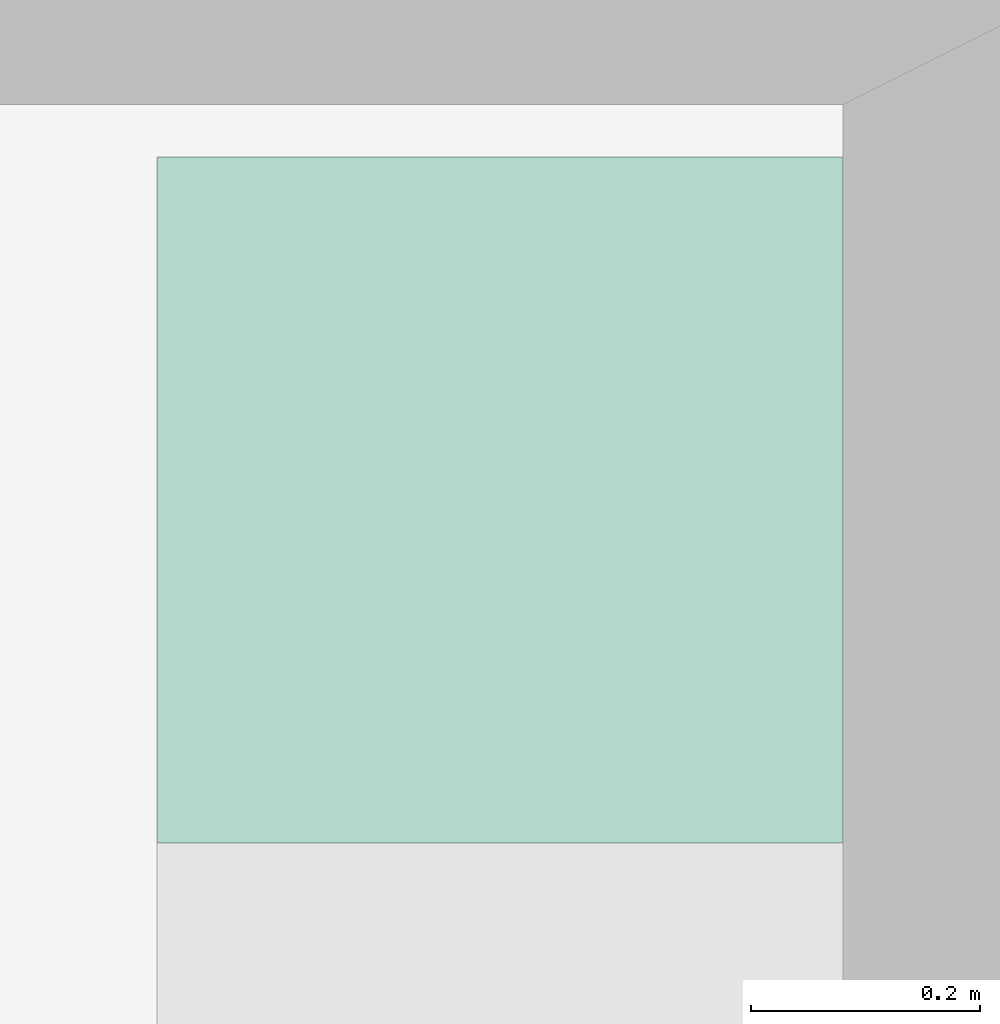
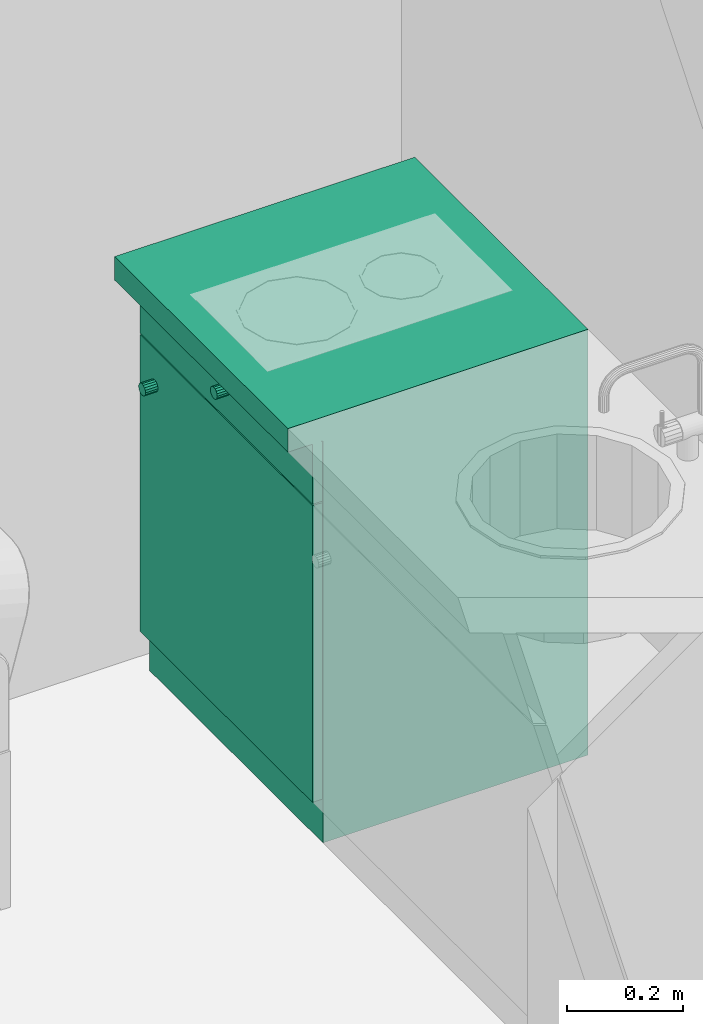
# One storey, part 60 of 172: 1 flow terminal.
"""IFC2X3 building model written with IfcOpenShell, lengths in millimetres."""

from ifc_helpers import new_model, entity, si_unit, converted_unit, money_unit, direction, frame, origin_with_axes, place, context, subcontext, project, spatial, faceted_brep, source, transform, mapped, material, material_list, type_object, element, save


model = new_model("IFC2X3")

# Units and contexts
model_context = context("Model", 3, precision=1e-05, world=origin_with_axes(), true_north=direction((0.0, 1.0)))
body_context = subcontext(model_context, "Body", "Model", "MODEL_VIEW")
ifc_project = project(units=[si_unit("LENGTHUNIT", "METRE", prefix="MILLI"), si_unit("AREAUNIT", "SQUARE_METRE"), si_unit("VOLUMEUNIT", "CUBIC_METRE"), converted_unit("PLANEANGLEUNIT", "DEGREE", entity("IfcPlaneAngleMeasure", 0.0174532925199), si_unit("PLANEANGLEUNIT", "RADIAN"), dimensions=[0, 0, 0, 0, 0, 0, 0]), si_unit("SOLIDANGLEUNIT", "STERADIAN"), money_unit("USD"), converted_unit("TIMEUNIT", "Year", entity("IfcTimeMeasure", 31556926.0), si_unit("TIMEUNIT", "SECOND"), dimensions=[0, 0, 0, 0, 0, 0, 0]), si_unit("MASSUNIT", "GRAM"), si_unit("THERMODYNAMICTEMPERATUREUNIT", "DEGREE_CELSIUS"), si_unit("LUMINOUSINTENSITYUNIT", "LUMEN")], contexts=[model_context])

# Site, building, storey
site_placement = place(None, origin_with_axes())
site = spatial("IfcSite", under=ifc_project, at=site_placement, Name="Site", CompositionType="ELEMENT")
building_placement = place(site_placement, origin_with_axes())
building = spatial("IfcBuilding", under=site, at=building_placement, Name="Building", CompositionType="ELEMENT")
storey_placement = place(building_placement, frame((0.0, 0.0, 3200.0), z_axis=(0.0, 0.0, 1.0), x_axis=(1.0, 0.0, 0.0)))
storey = spatial("IfcBuildingStorey", under=building, at=storey_placement, Name="3KORRUS", CompositionType="ELEMENT", Elevation=3200.0)

# Flow terminal
ifc_material = material(Name="Background")
ifc_material_list = material_list([ifc_material])
sanitary_terminal_type = type_object("IfcSanitaryTerminalType", Name="Cabinet Base Single Door 19", PredefinedType="SINK")
shared_shape = source(origin_with_axes(), body_context, "Body", "Brep", [
    faceted_brep([(-20.0, 70.0, 710.0), (-20.0, 70.0, 730.0), (-580.0, 70.0, 730.0), (-580.0, 70.0, 710.0), (-20.0, 580.0, 710.0), (-20.0, 580.0, 730.0), (-580.0, 580.0, 730.0), (-580.0, 580.0, 710.0)], [[[0, 1, 2, 3]], [[4, 5, 1, 0]], [[1, 5, 6, 2]], [[3, 2, 6, 7]], [[0, 3, 7, 4]], [[7, 6, 5, 4]]]),
    faceted_brep([(0.0, 70.0, 0.0), (0.0, 70.0, 90.0), (-600.0, 70.0, 90.0), (-600.0, 70.0, 0.0), (0.0, 600.0, 0.0), (0.0, 600.0, 90.0), (-600.0, 600.0, 90.0), (-600.0, 600.0, 0.0)], [[[0, 1, 2, 3]], [[4, 5, 1, 0]], [[1, 5, 6, 2]], [[3, 2, 6, 7]], [[0, 3, 7, 4]], [[7, 6, 5, 4]]]),
    faceted_brep([(0.0, 70.0, 830.0), (0.0, 70.0, 850.0), (-20.0, 70.0, 850.0), (-20.0, 70.0, 830.0), (0.0, 600.0, 830.0), (0.0, 600.0, 850.0), (-20.0, 600.0, 850.0), (-580.0, 600.0, 850.0), (-600.0, 600.0, 850.0), (-600.0, 70.0, 850.0), (-580.0, 70.0, 850.0), (-580.0, 70.0, 830.0), (-600.0, 70.0, 830.0), (-600.0, 600.0, 830.0), (-580.0, 600.0, 830.0), (-20.0, 600.0, 830.0)], [[[0, 1, 2, 3]], [[4, 5, 1, 0]], [[1, 5, 6, 7, 8, 9, 10, 2]], [[3, 2, 10, 11]], [[0, 3, 11, 12, 13, 14, 15, 4]], [[15, 6, 5, 4]], [[14, 7, 6, 15]], [[13, 8, 7, 14]], [[12, 9, 8, 13]], [[11, 10, 9, 12]]]),
    faceted_brep([(0.0, 70.0, 90.0), (0.0, 70.0, 110.0), (-20.0, 70.0, 110.0), (-20.0, 70.0, 90.0), (0.0, 600.0, 90.0), (0.0, 600.0, 110.0), (-20.0, 600.0, 110.0), (-580.0, 600.0, 110.0), (-600.0, 600.0, 110.0), (-600.0, 70.0, 110.0), (-580.0, 70.0, 110.0), (-580.0, 70.0, 90.0), (-600.0, 70.0, 90.0), (-600.0, 600.0, 90.0), (-580.0, 600.0, 90.0), (-20.0, 600.0, 90.0)], [[[0, 1, 2, 3]], [[4, 5, 1, 0]], [[1, 5, 6, 7, 8, 9, 10, 2]], [[3, 2, 10, 11]], [[0, 3, 11, 12, 13, 14, 15, 4]], [[15, 6, 5, 4]], [[14, 7, 6, 15]], [[13, 8, 7, 14]], [[12, 9, 8, 13]], [[11, 10, 9, 12]]]),
    faceted_brep([(0.0, 70.0, 110.0), (0.0, 70.0, 830.0), (-20.0, 70.0, 830.0), (-20.0, 70.0, 110.0), (0.0, 600.0, 110.0), (0.0, 600.0, 830.0), (-600.0, 600.0, 830.0), (-600.0, 70.0, 830.0), (-580.0, 70.0, 830.0), (-580.0, 580.0, 830.0), (-20.0, 580.0, 830.0), (-20.0, 580.0, 110.0), (-580.0, 580.0, 110.0), (-580.0, 70.0, 110.0), (-600.0, 70.0, 110.0), (-600.0, 600.0, 110.0)], [[[0, 1, 2, 3]], [[4, 5, 1, 0]], [[1, 5, 6, 7, 8, 9, 10, 2]], [[3, 2, 10, 11]], [[0, 3, 11, 12, 13, 14, 15, 4]], [[15, 6, 5, 4]], [[14, 7, 6, 15]], [[13, 8, 7, 14]], [[12, 9, 8, 13]], [[11, 10, 9, 12]]]),
    faceted_brep([(-580.0, 70.0, 385.0), (-580.0, 70.0, 405.0), (-580.0, 580.0, 405.0), (-580.0, 580.0, 385.0), (-20.0, 70.0, 385.0), (-20.0, 70.0, 405.0), (-20.0, 580.0, 405.0), (-20.0, 580.0, 385.0)], [[[0, 1, 2, 3]], [[4, 5, 1, 0]], [[1, 5, 6, 2]], [[3, 2, 6, 7]], [[0, 3, 7, 4]], [[7, 6, 5, 4]]]),
    faceted_brep([(0.0, 0.0, 850.0), (0.0, 0.0, 900.0), (-600.0, 0.0, 900.0), (-600.0, 0.0, 850.0), (0.0, 600.0, 850.0), (0.0, 600.0, 900.0), (-600.0, 600.0, 900.0), (-600.0, 600.0, 850.0)], [[[0, 1, 2, 3]], [[4, 5, 1, 0]], [[1, 5, 6, 2]], [[3, 2, 6, 7]], [[0, 3, 7, 4]], [[7, 6, 5, 4]]]),
    faceted_brep([(-1.5, 70.0, 721.5), (-1.5, 50.0, 721.5), (-598.5, 50.0, 721.5), (-598.5, 70.0, 721.5), (-1.5, 70.0, 848.5), (-1.5, 50.0, 848.5), (-598.5, 50.0, 848.5), (-598.5, 70.0, 848.5)], [[[0, 1, 2, 3]], [[4, 5, 1, 0]], [[1, 5, 6, 2]], [[3, 2, 6, 7]], [[0, 3, 7, 4]], [[7, 6, 5, 4]]]),
    faceted_brep([(-295.408, 50.0, 773.913), (-300.0, 50.0, 773.0), (-304.592, 50.0, 773.913), (-308.485, 50.0, 776.515), (-311.087, 50.0, 780.408), (-312.0, 50.0, 785.0), (-311.087, 50.0, 789.592), (-308.485, 50.0, 793.485), (-304.592, 50.0, 796.087), (-300.0, 50.0, 797.0), (-295.408, 50.0, 796.087), (-291.515, 50.0, 793.485), (-288.913, 50.0, 789.592), (-288.0, 50.0, 785.0), (-288.913, 50.0, 780.408), (-291.515, 50.0, 776.515), (-295.408, 25.0, 773.913), (-300.0, 25.0, 773.0), (-304.592, 25.0, 773.913), (-308.485, 25.0, 776.515), (-311.087, 25.0, 780.408), (-312.0, 25.0, 785.0), (-311.087, 25.0, 789.592), (-308.485, 25.0, 793.485), (-304.592, 25.0, 796.087), (-300.0, 25.0, 797.0), (-295.408, 25.0, 796.087), (-291.515, 25.0, 793.485), (-288.913, 25.0, 789.592), (-288.0, 25.0, 785.0), (-288.913, 25.0, 780.408), (-291.515, 25.0, 776.515)], [[[0, 1, 2, 3, 4, 5, 6, 7, 8, 9, 10, 11, 12, 13, 14, 15]], [[0, 16, 17, 1]], [[1, 17, 18, 2]], [[2, 18, 19, 3]], [[3, 19, 20, 4]], [[4, 20, 21, 5]], [[5, 21, 22, 6]], [[6, 22, 23, 7]], [[7, 23, 24, 8]], [[8, 24, 25, 9]], [[9, 25, 26, 10]], [[10, 26, 27, 11]], [[11, 27, 28, 12]], [[12, 28, 29, 13]], [[13, 29, 30, 14]], [[14, 30, 31, 15]], [[15, 31, 16, 0]], [[16, 31, 30, 29, 28, 27, 26, 25, 24, 23, 22, 21, 20, 19, 18, 17]]]),
    faceted_brep([(-1.5, 70.0, 91.5), (-1.5, 50.0, 91.5), (-598.5, 50.0, 91.5), (-598.5, 70.0, 91.5), (-1.5, 70.0, 718.5), (-1.5, 50.0, 718.5), (-598.5, 50.0, 718.5), (-598.5, 70.0, 718.5)], [[[0, 1, 2, 3]], [[4, 5, 1, 0]], [[1, 5, 6, 2]], [[3, 2, 6, 7]], [[0, 3, 7, 4]], [[7, 6, 5, 4]]]),
    faceted_brep([(-559.587, 50.0, 636.908), (-560.5, 50.0, 641.5), (-559.587, 50.0, 646.092), (-556.985, 50.0, 649.985), (-553.092, 50.0, 652.587), (-548.5, 50.0, 653.5), (-543.908, 50.0, 652.587), (-540.015, 50.0, 649.985), (-537.413, 50.0, 646.092), (-536.5, 50.0, 641.5), (-537.413, 50.0, 636.908), (-540.015, 50.0, 633.015), (-543.908, 50.0, 630.413), (-548.5, 50.0, 629.5), (-553.092, 50.0, 630.413), (-556.985, 50.0, 633.015), (-559.587, 25.0, 636.908), (-560.5, 25.0, 641.5), (-559.587, 25.0, 646.092), (-556.985, 25.0, 649.985), (-553.092, 25.0, 652.587), (-548.5, 25.0, 653.5), (-543.908, 25.0, 652.587), (-540.015, 25.0, 649.985), (-537.413, 25.0, 646.092), (-536.5, 25.0, 641.5), (-537.413, 25.0, 636.908), (-540.015, 25.0, 633.015), (-543.908, 25.0, 630.413), (-548.5, 25.0, 629.5), (-553.092, 25.0, 630.413), (-556.985, 25.0, 633.015)], [[[0, 1, 2, 3, 4, 5, 6, 7, 8, 9, 10, 11, 12, 13, 14, 15]], [[0, 16, 17, 1]], [[1, 17, 18, 2]], [[2, 18, 19, 3]], [[3, 19, 20, 4]], [[4, 20, 21, 5]], [[5, 21, 22, 6]], [[6, 22, 23, 7]], [[7, 23, 24, 8]], [[8, 24, 25, 9]], [[9, 25, 26, 10]], [[10, 26, 27, 11]], [[11, 27, 28, 12]], [[12, 28, 29, 13]], [[13, 29, 30, 14]], [[14, 30, 31, 15]], [[15, 31, 16, 0]], [[16, 31, 30, 29, 28, 27, 26, 25, 24, 23, 22, 21, 20, 19, 18, 17]]]),
])
flow_terminal_placement = place(storey_placement, frame((11109.7032967, -13859.2398994, 0.0), z_axis=(0.0, 0.0, 1.0), x_axis=(0.0, -1.0, 0.0)))
element("IfcFlowTerminal", 1, at=flow_terminal_placement, inside=storey, type_object=sanitary_terminal_type, material=ifc_material_list, Name="FU - 007", context=body_context, shape_type="MappedRepresentation", body=[
    mapped(shared_shape, transform((0.0, 0.0, 0.0))),
])

save(model, "model.ifc")
